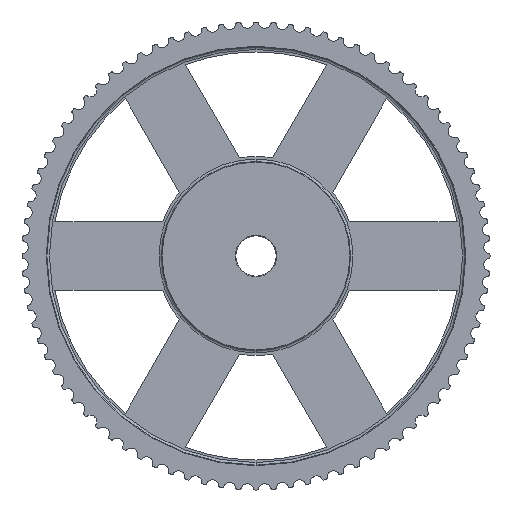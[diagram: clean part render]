
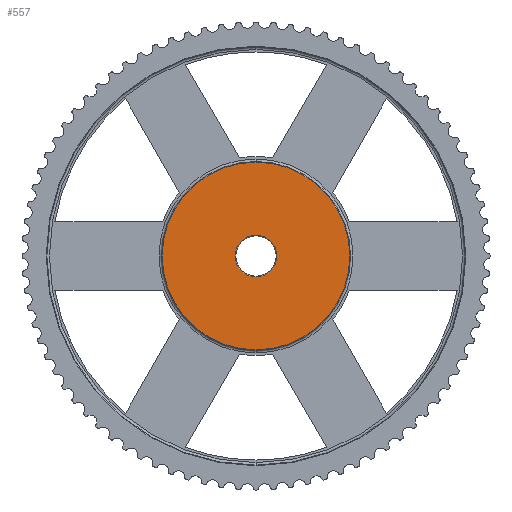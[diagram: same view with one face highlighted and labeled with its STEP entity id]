
A CAD part, left-side view. The second image highlights one B-rep face of the part: STEP entity #557.
In plain terms, the highlighted planar face has unit normal (-1, 0, 0).
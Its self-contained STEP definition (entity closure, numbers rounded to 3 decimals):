
#557=ADVANCED_FACE('',(#1540,#1541),#1542,.T.);
#1540=FACE_BOUND('',#2526,.T.);
#1541=FACE_OUTER_BOUND('',#2527,.T.);
#1542=PLANE('',#2528);
#2526=EDGE_LOOP('',(#6814,#6815));
#2527=EDGE_LOOP('',(#6816,#6817));
#2528=AXIS2_PLACEMENT_3D('',#6818,#6819,#6820);
#6814=ORIENTED_EDGE('',*,*,#6899,.T.);
#6815=ORIENTED_EDGE('',*,*,#6905,.T.);
#6816=ORIENTED_EDGE('',*,*,#8247,.T.);
#6817=ORIENTED_EDGE('',*,*,#6838,.T.);
#6818=CARTESIAN_POINT('',(0.0,0.0,0.0));
#6819=DIRECTION('',(-1.0,0.0,0.0));
#6820=DIRECTION('',(0.0,0.0,1.0));
#6838=EDGE_CURVE('',#8270,#8267,#8271,.T.);
#6899=EDGE_CURVE('',#8379,#8381,#8383,.T.);
#6905=EDGE_CURVE('',#8381,#8379,#8391,.T.);
#8247=EDGE_CURVE('',#8267,#8270,#10613,.T.);
#8267=VERTEX_POINT('',#10637);
#8270=VERTEX_POINT('',#10641);
#8271=CIRCLE('',#10642,74.5);
#8379=VERTEX_POINT('',#10771);
#8381=VERTEX_POINT('',#10774);
#8383=CIRCLE('',#10777,16.5);
#8391=CIRCLE('',#10787,16.5);
#10613=CIRCLE('',#13473,74.5);
#10637=CARTESIAN_POINT('',(0.0,74.5,0.0));
#10641=CARTESIAN_POINT('',(0.0,-74.5,0.));
#10642=AXIS2_PLACEMENT_3D('',#13496,#13497,#13498);
#10771=CARTESIAN_POINT('',(0.0,16.5,0.0));
#10774=CARTESIAN_POINT('',(0.0,-16.5,0.));
#10777=AXIS2_PLACEMENT_3D('',#13633,#13634,#13635);
#10787=AXIS2_PLACEMENT_3D('',#13647,#13648,#13649);
#13473=AXIS2_PLACEMENT_3D('',#16745,#16746,#16747);
#13496=CARTESIAN_POINT('',(0.0,0.0,0.));
#13497=DIRECTION('',(-1.0,0.0,0.0));
#13498=DIRECTION('',(0.0,1.0,0.0));
#13633=CARTESIAN_POINT('',(0.0,0.0,0.0));
#13634=DIRECTION('',(1.0,0.0,0.0));
#13635=DIRECTION('',(0.0,1.0,0.0));
#13647=CARTESIAN_POINT('',(0.0,0.0,0.0));
#13648=DIRECTION('',(1.0,0.0,0.0));
#13649=DIRECTION('',(0.0,1.0,0.0));
#16745=CARTESIAN_POINT('',(0.0,0.0,0.));
#16746=DIRECTION('',(-1.0,0.0,0.0));
#16747=DIRECTION('',(0.0,1.0,0.0));
